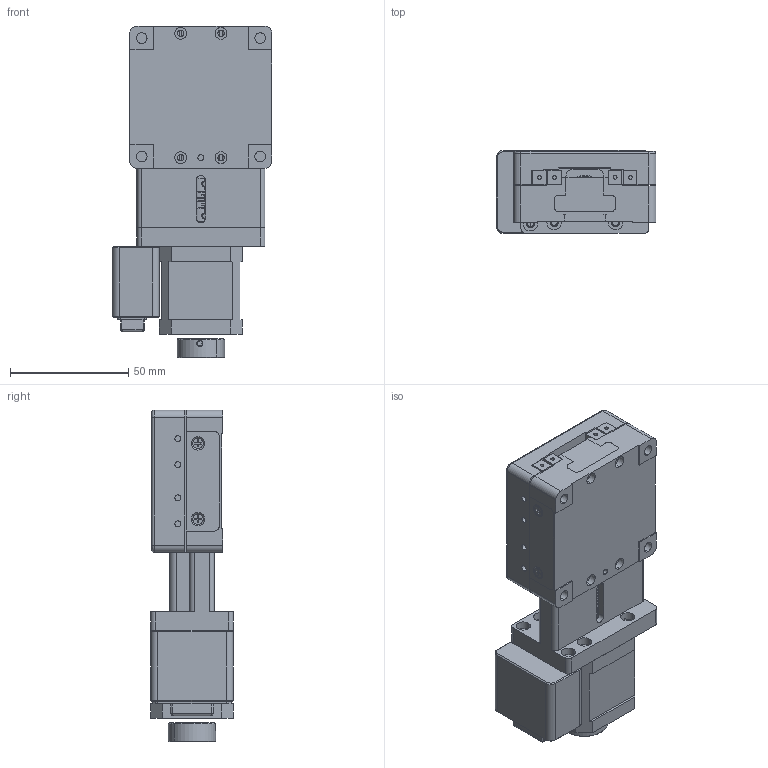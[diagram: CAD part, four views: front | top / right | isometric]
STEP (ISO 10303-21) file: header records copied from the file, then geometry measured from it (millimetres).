
FILE_DESCRIPTION (( 'STEP AP203' ), '1' );
FILE_NAME ('电动位移台：ZT10220H35.STEP', '2023-04-04T01:10:35', ( '' ), ( '' ), 'SwSTEP 2.0', 'SolidWorks 2016', '' );
FILE_SCHEMA (( 'CONFIG_CONTROL_DESIGN' ));
Length unit declared in the file: millimetre
Products named in the file (1): 电动位移台：ZT10220H35
Bounding box: 67.5 x 35 x 140 mm (x, y, z)
Surface area: 50963.6 mm2 (no closed solid volume)
Topology: 0 solids, 32 shells, 569 faces, 2093 edges, 1506 vertices
Faces by surface type: plane 287, cylinder 216, cone 36, torus 24, bspline 6
Entity records: 24271 total; most frequent: CARTESIAN_POINT 6497, DIRECTION 3684, ORIENTED_EDGE 3279, EDGE_CURVE 2069, VERTEX_POINT 1506, AXIS2_PLACEMENT_3D 1305, VECTOR 1074, LINE 1074
